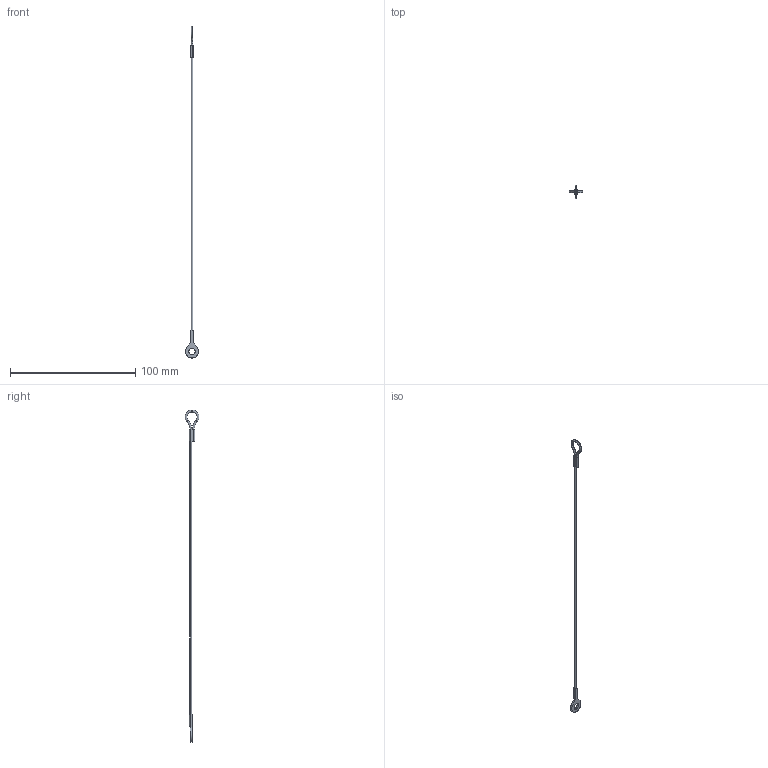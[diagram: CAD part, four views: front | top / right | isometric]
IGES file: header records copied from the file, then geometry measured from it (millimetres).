
Start section: SolidWorks IGES file using analytic representation for surfaces
Global section: file name: C:\Users\ianosborn\Desktop\LA1075_v2\LA1075_v2_20260320_IGES\LA1075.I06-254N1.igs; native system: SolidWorks 2019; preprocessor: SolidWorks 2019; author: IanOsborn; date: 260323.164535; units: millimetre
Bounding box: 10.41 x 11.16 x 264.8 mm (x, y, z)
Surface area: 1711.7 mm2 (no closed solid volume)
Topology: 0 solids, 0 shells, 32 faces, 404 edges, 404 vertices
Faces by surface type: bspline 22, revolution 10
